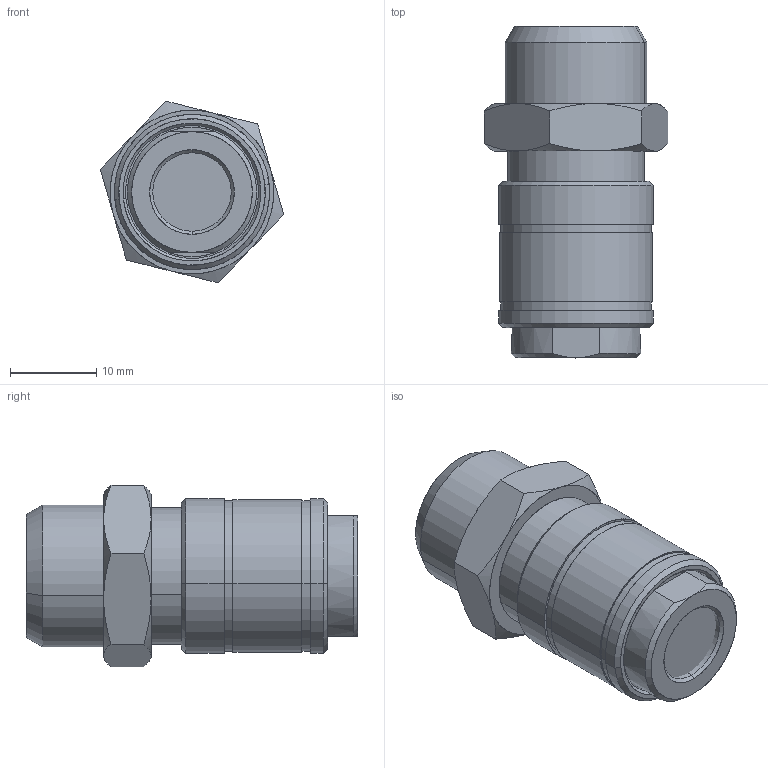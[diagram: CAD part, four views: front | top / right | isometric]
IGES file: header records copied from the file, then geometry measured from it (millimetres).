
Start section: SolidWorks IGES file using analytic representation for surfaces
Global section: file name: K:\Disegni Esecutivi\Serie 100-200\ASSIEMI\181\181_iges\0018100003A.IGS; native system: SolidWorks 2009; preprocessor: SolidWorks 2009; author: cad05; date: 090518.103755; units: millimetre
Bounding box: 21.29 x 38.5 x 21.08 mm (x, y, z)
Surface area: 6105.1 mm2 (no closed solid volume)
Topology: 0 solids, 0 shells, 82 faces, 1436 edges, 1436 vertices
Faces by surface type: revolution 58, bspline 24
